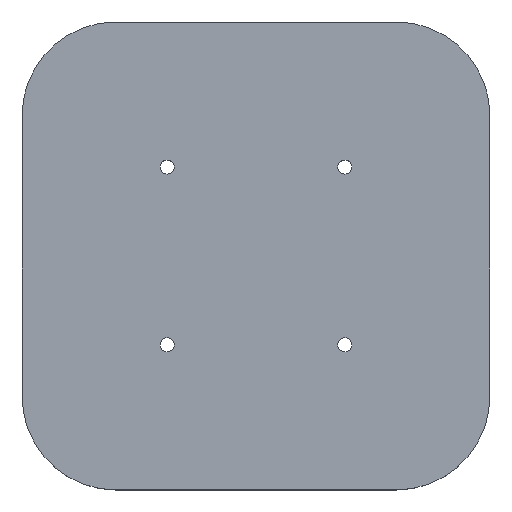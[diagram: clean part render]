
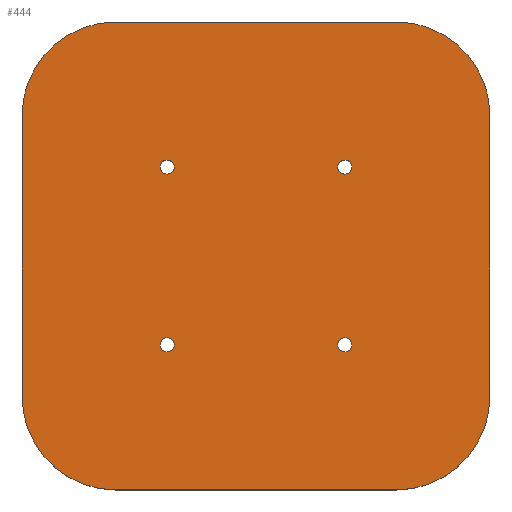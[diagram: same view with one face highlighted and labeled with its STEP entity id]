
A CAD part, top view. The second image highlights one B-rep face of the part: STEP entity #444.
In plain terms, the highlighted planar face has unit normal (0, 0, 1).
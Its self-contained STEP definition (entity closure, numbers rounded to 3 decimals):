
#24=FACE_BOUND('',#115,.T.);
#25=FACE_BOUND('',#116,.T.);
#26=FACE_BOUND('',#117,.T.);
#27=FACE_BOUND('',#118,.T.);
#40=CIRCLE('',#482,1.5);
#42=CIRCLE('',#485,1.5);
#44=CIRCLE('',#488,1.5);
#46=CIRCLE('',#491,1.5);
#48=CIRCLE('',#494,20.);
#49=CIRCLE('',#498,20.);
#50=CIRCLE('',#501,20.);
#51=CIRCLE('',#504,20.);
#86=FACE_OUTER_BOUND('',#114,.T.);
#114=EDGE_LOOP('',(#399,#400,#401,#402,#403,#404,#405,#406));
#115=EDGE_LOOP('',(#407));
#116=EDGE_LOOP('',(#408));
#117=EDGE_LOOP('',(#409));
#118=EDGE_LOOP('',(#410));
#146=LINE('',#744,#182);
#149=LINE('',#753,#185);
#152=LINE('',#761,#188);
#154=LINE('',#767,#190);
#182=VECTOR('',#611,10.);
#185=VECTOR('',#622,10.);
#188=VECTOR('',#631,10.);
#190=VECTOR('',#639,10.);
#215=VERTEX_POINT('',#712);
#217=VERTEX_POINT('',#718);
#219=VERTEX_POINT('',#724);
#221=VERTEX_POINT('',#730);
#223=VERTEX_POINT('',#736);
#224=VERTEX_POINT('',#737);
#225=VERTEX_POINT('',#742);
#226=VERTEX_POINT('',#747);
#227=VERTEX_POINT('',#751);
#228=VERTEX_POINT('',#755);
#229=VERTEX_POINT('',#759);
#230=VERTEX_POINT('',#763);
#263=EDGE_CURVE('',#215,#215,#40,.T.);
#266=EDGE_CURVE('',#217,#217,#42,.T.);
#269=EDGE_CURVE('',#219,#219,#44,.T.);
#272=EDGE_CURVE('',#221,#221,#46,.T.);
#275=EDGE_CURVE('',#223,#224,#48,.T.);
#279=EDGE_CURVE('',#223,#225,#146,.T.);
#280=EDGE_CURVE('',#226,#225,#49,.T.);
#283=EDGE_CURVE('',#226,#227,#149,.T.);
#284=EDGE_CURVE('',#228,#227,#50,.T.);
#287=EDGE_CURVE('',#228,#229,#152,.T.);
#288=EDGE_CURVE('',#230,#229,#51,.T.);
#290=EDGE_CURVE('',#230,#224,#154,.T.);
#399=ORIENTED_EDGE('',*,*,#275,.F.);
#400=ORIENTED_EDGE('',*,*,#279,.T.);
#401=ORIENTED_EDGE('',*,*,#280,.F.);
#402=ORIENTED_EDGE('',*,*,#283,.T.);
#403=ORIENTED_EDGE('',*,*,#284,.F.);
#404=ORIENTED_EDGE('',*,*,#287,.T.);
#405=ORIENTED_EDGE('',*,*,#288,.F.);
#406=ORIENTED_EDGE('',*,*,#290,.T.);
#407=ORIENTED_EDGE('',*,*,#263,.T.);
#408=ORIENTED_EDGE('',*,*,#266,.T.);
#409=ORIENTED_EDGE('',*,*,#269,.T.);
#410=ORIENTED_EDGE('',*,*,#272,.T.);
#421=PLANE('',#506);
#444=ADVANCED_FACE('',(#86,#24,#25,#26,#27),#421,.T.);
#482=AXIS2_PLACEMENT_3D('',#713,#576,#577);
#485=AXIS2_PLACEMENT_3D('',#719,#583,#584);
#488=AXIS2_PLACEMENT_3D('',#725,#590,#591);
#491=AXIS2_PLACEMENT_3D('',#731,#597,#598);
#494=AXIS2_PLACEMENT_3D('',#738,#604,#605);
#498=AXIS2_PLACEMENT_3D('',#748,#616,#617);
#501=AXIS2_PLACEMENT_3D('',#756,#625,#626);
#504=AXIS2_PLACEMENT_3D('',#764,#634,#635);
#506=AXIS2_PLACEMENT_3D('',#768,#640,#641);
#576=DIRECTION('center_axis',(0.,0.,-1.));
#577=DIRECTION('ref_axis',(-1.,0.,0.));
#583=DIRECTION('center_axis',(0.,0.,-1.));
#584=DIRECTION('ref_axis',(-1.,0.,0.));
#590=DIRECTION('center_axis',(0.,0.,-1.));
#591=DIRECTION('ref_axis',(-1.,0.,0.));
#597=DIRECTION('center_axis',(0.,0.,-1.));
#598=DIRECTION('ref_axis',(-1.,0.,0.));
#604=DIRECTION('center_axis',(0.,0.,-1.));
#605=DIRECTION('ref_axis',(0.707,0.707,0.));
#611=DIRECTION('',(-1.,0.,0.));
#616=DIRECTION('center_axis',(0.,0.,-1.));
#617=DIRECTION('ref_axis',(-0.707,0.707,0.));
#622=DIRECTION('',(0.,-1.,0.));
#625=DIRECTION('center_axis',(0.,0.,-1.));
#626=DIRECTION('ref_axis',(-0.707,-0.707,0.));
#631=DIRECTION('',(1.,0.,0.));
#634=DIRECTION('center_axis',(0.,0.,-1.));
#635=DIRECTION('ref_axis',(0.707,-0.707,0.));
#639=DIRECTION('',(0.,1.,0.));
#640=DIRECTION('center_axis',(0.,0.,1.));
#641=DIRECTION('ref_axis',(1.,0.,0.));
#712=CARTESIAN_POINT('',(-17.5,19.,3.));
#713=CARTESIAN_POINT('Origin',(-19.,19.,3.));
#718=CARTESIAN_POINT('',(20.5,19.,3.));
#719=CARTESIAN_POINT('Origin',(19.,19.,3.));
#724=CARTESIAN_POINT('',(-17.5,-19.,3.));
#725=CARTESIAN_POINT('Origin',(-19.,-19.,3.));
#730=CARTESIAN_POINT('',(20.5,-19.,3.));
#731=CARTESIAN_POINT('Origin',(19.,-19.,3.));
#736=CARTESIAN_POINT('',(30.,50.,3.));
#737=CARTESIAN_POINT('',(50.,30.,3.));
#738=CARTESIAN_POINT('Origin',(30.,30.,3.));
#742=CARTESIAN_POINT('',(-30.,50.,3.));
#744=CARTESIAN_POINT('',(-50.,50.,3.));
#747=CARTESIAN_POINT('',(-50.,30.,3.));
#748=CARTESIAN_POINT('Origin',(-30.,30.,3.));
#751=CARTESIAN_POINT('',(-50.,-30.,3.));
#753=CARTESIAN_POINT('',(-50.,-50.,3.));
#755=CARTESIAN_POINT('',(-30.,-50.,3.));
#756=CARTESIAN_POINT('Origin',(-30.,-30.,3.));
#759=CARTESIAN_POINT('',(30.,-50.,3.));
#761=CARTESIAN_POINT('',(50.,-50.,3.));
#763=CARTESIAN_POINT('',(50.,-30.,3.));
#764=CARTESIAN_POINT('Origin',(30.,-30.,3.));
#767=CARTESIAN_POINT('',(50.,50.,3.));
#768=CARTESIAN_POINT('Origin',(0.,0.,3.));
